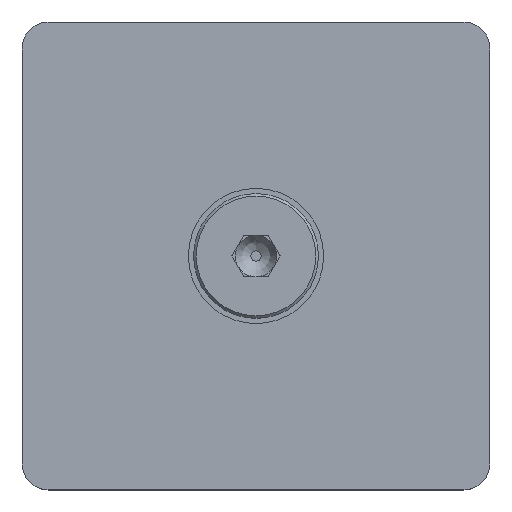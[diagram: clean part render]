
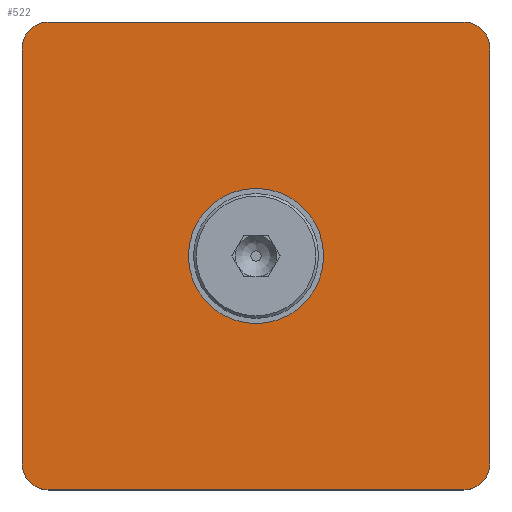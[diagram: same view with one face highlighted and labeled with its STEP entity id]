
A CAD part, top view. The second image highlights one B-rep face of the part: STEP entity #522.
In plain terms, the highlighted planar face has unit normal (0, 0, 1).
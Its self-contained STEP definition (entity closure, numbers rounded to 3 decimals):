
#35=LINE('',#877,#81);
#36=LINE('',#881,#82);
#37=LINE('',#885,#83);
#38=LINE('',#888,#84);
#81=VECTOR('',#709,10.);
#82=VECTOR('',#712,10.);
#83=VECTOR('',#715,10.);
#84=VECTOR('',#718,10.);
#132=FACE_BOUND('',#176,.T.);
#140=FACE_OUTER_BOUND('',#175,.T.);
#175=EDGE_LOOP('',(#365,#366,#367,#368,#369,#370,#371,#372));
#176=EDGE_LOOP('',(#373));
#211=CIRCLE('',#622,6.5);
#213=CIRCLE('',#626,2.5);
#215=CIRCLE('',#629,2.5);
#216=CIRCLE('',#630,2.5);
#217=CIRCLE('',#631,2.5);
#236=VERTEX_POINT('',#859);
#238=VERTEX_POINT('',#867);
#239=VERTEX_POINT('',#868);
#242=VERTEX_POINT('',#876);
#243=VERTEX_POINT('',#878);
#244=VERTEX_POINT('',#880);
#245=VERTEX_POINT('',#882);
#246=VERTEX_POINT('',#884);
#247=VERTEX_POINT('',#886);
#281=EDGE_CURVE('',#236,#236,#211,.T.);
#285=EDGE_CURVE('',#238,#239,#213,.T.);
#289=EDGE_CURVE('',#242,#238,#35,.T.);
#290=EDGE_CURVE('',#243,#242,#215,.T.);
#291=EDGE_CURVE('',#244,#243,#36,.T.);
#292=EDGE_CURVE('',#245,#244,#216,.T.);
#293=EDGE_CURVE('',#246,#245,#37,.T.);
#294=EDGE_CURVE('',#247,#246,#217,.T.);
#295=EDGE_CURVE('',#239,#247,#38,.T.);
#365=ORIENTED_EDGE('',*,*,#285,.F.);
#366=ORIENTED_EDGE('',*,*,#289,.F.);
#367=ORIENTED_EDGE('',*,*,#290,.F.);
#368=ORIENTED_EDGE('',*,*,#291,.F.);
#369=ORIENTED_EDGE('',*,*,#292,.F.);
#370=ORIENTED_EDGE('',*,*,#293,.F.);
#371=ORIENTED_EDGE('',*,*,#294,.F.);
#372=ORIENTED_EDGE('',*,*,#295,.F.);
#373=ORIENTED_EDGE('',*,*,#281,.T.);
#496=PLANE('',#628);
#522=ADVANCED_FACE('',(#140,#132),#496,.T.);
#622=AXIS2_PLACEMENT_3D('',#860,#691,#692);
#626=AXIS2_PLACEMENT_3D('',#869,#701,#702);
#628=AXIS2_PLACEMENT_3D('',#875,#707,#708);
#629=AXIS2_PLACEMENT_3D('',#879,#710,#711);
#630=AXIS2_PLACEMENT_3D('',#883,#713,#714);
#631=AXIS2_PLACEMENT_3D('',#887,#716,#717);
#691=DIRECTION('center_axis',(0.,0.,-1.));
#692=DIRECTION('ref_axis',(1.,0.,0.));
#701=DIRECTION('center_axis',(0.,0.,-1.));
#702=DIRECTION('ref_axis',(0.707,0.707,0.));
#707=DIRECTION('center_axis',(0.,0.,1.));
#708=DIRECTION('ref_axis',(1.,0.,0.));
#709=DIRECTION('',(1.,0.,0.));
#710=DIRECTION('center_axis',(0.,0.,-1.));
#711=DIRECTION('ref_axis',(-0.707,0.707,0.));
#712=DIRECTION('',(0.,1.,0.));
#713=DIRECTION('center_axis',(0.,0.,-1.));
#714=DIRECTION('ref_axis',(-0.707,-0.707,0.));
#715=DIRECTION('',(-1.,0.,0.));
#716=DIRECTION('center_axis',(0.,0.,-1.));
#717=DIRECTION('ref_axis',(0.707,-0.707,0.));
#718=DIRECTION('',(0.,-1.,0.));
#859=CARTESIAN_POINT('',(-6.5,0.,3.));
#860=CARTESIAN_POINT('Origin',(0.,0.,3.));
#867=CARTESIAN_POINT('',(20.,22.5,3.));
#868=CARTESIAN_POINT('',(22.5,20.,3.));
#869=CARTESIAN_POINT('Origin',(20.,20.,3.));
#875=CARTESIAN_POINT('Origin',(0.,0.,
3.));
#876=CARTESIAN_POINT('',(-20.,22.5,3.));
#877=CARTESIAN_POINT('',(22.5,22.5,3.));
#878=CARTESIAN_POINT('',(-22.5,20.,3.));
#879=CARTESIAN_POINT('Origin',(-20.,20.,3.));
#880=CARTESIAN_POINT('',(-22.5,-20.,3.));
#881=CARTESIAN_POINT('',(-22.5,22.5,3.));
#882=CARTESIAN_POINT('',(-20.,-22.5,3.));
#883=CARTESIAN_POINT('Origin',(-20.,-20.,3.));
#884=CARTESIAN_POINT('',(20.,-22.5,3.));
#885=CARTESIAN_POINT('',(-22.5,-22.5,3.));
#886=CARTESIAN_POINT('',(22.5,-20.,3.));
#887=CARTESIAN_POINT('Origin',(20.,-20.,3.));
#888=CARTESIAN_POINT('',(22.5,-22.5,3.));
